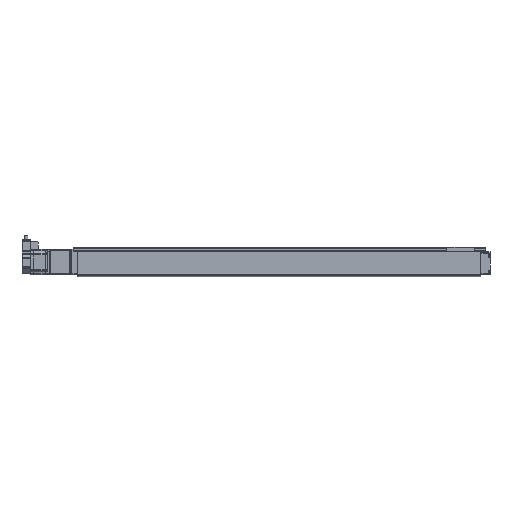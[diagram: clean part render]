
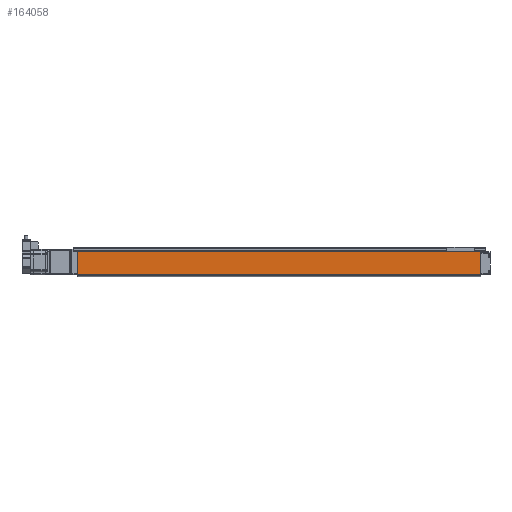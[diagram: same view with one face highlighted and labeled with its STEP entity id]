
A CAD part, front view. The second image highlights one B-rep face of the part: STEP entity #164058.
In plain terms, the highlighted planar face has unit normal (0, -1, 0).
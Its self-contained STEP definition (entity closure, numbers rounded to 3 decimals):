
#164058 = ADVANCED_FACE('',(#164059),#164073,.T.);
#164059 = FACE_BOUND('',#164060,.T.);
#164060 = EDGE_LOOP('',(#164061,#164096,#164124,#164152));
#164061 = ORIENTED_EDGE('',*,*,#164062,.T.);
#164062 = EDGE_CURVE('',#164063,#164065,#164067,.T.);
#164063 = VERTEX_POINT('',#164064);
#164064 = CARTESIAN_POINT('',(1376.173,-709.318,181.5));
#164065 = VERTEX_POINT('',#164066);
#164066 = CARTESIAN_POINT('',(1376.173,-709.318,232.5));
#164067 = SURFACE_CURVE('',#164068,(#164072,#164084),.PCURVE_S1.);
#164068 = LINE('',#164069,#164070);
#164069 = CARTESIAN_POINT('',(1376.173,-709.318,207.));
#164070 = VECTOR('',#164071,1.);
#164071 = DIRECTION('',(0.,0.,1.));
#164072 = PCURVE('',#164073,#164078);
#164073 = PLANE('',#164074);
#164074 = AXIS2_PLACEMENT_3D('',#164075,#164076,#164077);
#164075 = CARTESIAN_POINT('',(486.173,-709.318,181.5));
#164076 = DIRECTION('',(0.,-1.,0.));
#164077 = DIRECTION('',(1.,0.,0.));
#164078 = DEFINITIONAL_REPRESENTATION('',(#164079),#164083);
#164079 = LINE('',#164080,#164081);
#164080 = CARTESIAN_POINT('',(890.,25.5));
#164081 = VECTOR('',#164082,1.);
#164082 = DIRECTION('',(0.,1.));
#164083 = ( GEOMETRIC_REPRESENTATION_CONTEXT(2) 
PARAMETRIC_REPRESENTATION_CONTEXT() REPRESENTATION_CONTEXT('2D SPACE',''
  ) );
#164084 = PCURVE('',#164085,#164090);
#164085 = PLANE('',#164086);
#164086 = AXIS2_PLACEMENT_3D('',#164087,#164088,#164089);
#164087 = CARTESIAN_POINT('',(1376.173,-629.318,181.5));
#164088 = DIRECTION('',(-1.,0.,0.));
#164089 = DIRECTION('',(0.,-1.,0.));
#164090 = DEFINITIONAL_REPRESENTATION('',(#164091),#164095);
#164091 = LINE('',#164092,#164093);
#164092 = CARTESIAN_POINT('',(80.,25.5));
#164093 = VECTOR('',#164094,1.);
#164094 = DIRECTION('',(0.,1.));
#164095 = ( GEOMETRIC_REPRESENTATION_CONTEXT(2) 
PARAMETRIC_REPRESENTATION_CONTEXT() REPRESENTATION_CONTEXT('2D SPACE',''
  ) );
#164096 = ORIENTED_EDGE('',*,*,#164097,.T.);
#164097 = EDGE_CURVE('',#164065,#164098,#164100,.T.);
#164098 = VERTEX_POINT('',#164099);
#164099 = CARTESIAN_POINT('',(486.173,-709.318,232.5));
#164100 = SURFACE_CURVE('',#164101,(#164105,#164112),.PCURVE_S1.);
#164101 = LINE('',#164102,#164103);
#164102 = CARTESIAN_POINT('',(931.173,-709.318,232.5));
#164103 = VECTOR('',#164104,1.);
#164104 = DIRECTION('',(-1.,0.,0.));
#164105 = PCURVE('',#164073,#164106);
#164106 = DEFINITIONAL_REPRESENTATION('',(#164107),#164111);
#164107 = LINE('',#164108,#164109);
#164108 = CARTESIAN_POINT('',(445.,51.));
#164109 = VECTOR('',#164110,1.);
#164110 = DIRECTION('',(-1.,0.));
#164111 = ( GEOMETRIC_REPRESENTATION_CONTEXT(2) 
PARAMETRIC_REPRESENTATION_CONTEXT() REPRESENTATION_CONTEXT('2D SPACE',''
  ) );
#164112 = PCURVE('',#164113,#164118);
#164113 = PLANE('',#164114);
#164114 = AXIS2_PLACEMENT_3D('',#164115,#164116,#164117);
#164115 = CARTESIAN_POINT('',(486.173,-709.318,232.5));
#164116 = DIRECTION('',(0.,0.,-1.));
#164117 = DIRECTION('',(0.,1.,0.));
#164118 = DEFINITIONAL_REPRESENTATION('',(#164119),#164123);
#164119 = LINE('',#164120,#164121);
#164120 = CARTESIAN_POINT('',(0.,445.));
#164121 = VECTOR('',#164122,1.);
#164122 = DIRECTION('',(0.,-1.));
#164123 = ( GEOMETRIC_REPRESENTATION_CONTEXT(2) 
PARAMETRIC_REPRESENTATION_CONTEXT() REPRESENTATION_CONTEXT('2D SPACE',''
  ) );
#164124 = ORIENTED_EDGE('',*,*,#164125,.T.);
#164125 = EDGE_CURVE('',#164098,#164126,#164128,.T.);
#164126 = VERTEX_POINT('',#164127);
#164127 = CARTESIAN_POINT('',(486.173,-709.318,181.5));
#164128 = SURFACE_CURVE('',#164129,(#164133,#164140),.PCURVE_S1.);
#164129 = LINE('',#164130,#164131);
#164130 = CARTESIAN_POINT('',(486.173,-709.318,207.));
#164131 = VECTOR('',#164132,1.);
#164132 = DIRECTION('',(0.,0.,-1.));
#164133 = PCURVE('',#164073,#164134);
#164134 = DEFINITIONAL_REPRESENTATION('',(#164135),#164139);
#164135 = LINE('',#164136,#164137);
#164136 = CARTESIAN_POINT('',(0.,25.5));
#164137 = VECTOR('',#164138,1.);
#164138 = DIRECTION('',(0.,-1.));
#164139 = ( GEOMETRIC_REPRESENTATION_CONTEXT(2) 
PARAMETRIC_REPRESENTATION_CONTEXT() REPRESENTATION_CONTEXT('2D SPACE',''
  ) );
#164140 = PCURVE('',#164141,#164146);
#164141 = PLANE('',#164142);
#164142 = AXIS2_PLACEMENT_3D('',#164143,#164144,#164145);
#164143 = CARTESIAN_POINT('',(486.173,-709.318,181.5));
#164144 = DIRECTION('',(1.,0.,0.));
#164145 = DIRECTION('',(0.,1.,0.));
#164146 = DEFINITIONAL_REPRESENTATION('',(#164147),#164151);
#164147 = LINE('',#164148,#164149);
#164148 = CARTESIAN_POINT('',(0.,25.5));
#164149 = VECTOR('',#164150,1.);
#164150 = DIRECTION('',(0.,-1.));
#164151 = ( GEOMETRIC_REPRESENTATION_CONTEXT(2) 
PARAMETRIC_REPRESENTATION_CONTEXT() REPRESENTATION_CONTEXT('2D SPACE',''
  ) );
#164152 = ORIENTED_EDGE('',*,*,#164153,.T.);
#164153 = EDGE_CURVE('',#164126,#164063,#164154,.T.);
#164154 = SURFACE_CURVE('',#164155,(#164159,#164166),.PCURVE_S1.);
#164155 = LINE('',#164156,#164157);
#164156 = CARTESIAN_POINT('',(931.173,-709.318,181.5));
#164157 = VECTOR('',#164158,1.);
#164158 = DIRECTION('',(1.,0.,0.));
#164159 = PCURVE('',#164073,#164160);
#164160 = DEFINITIONAL_REPRESENTATION('',(#164161),#164165);
#164161 = LINE('',#164162,#164163);
#164162 = CARTESIAN_POINT('',(445.,0.));
#164163 = VECTOR('',#164164,1.);
#164164 = DIRECTION('',(1.,0.));
#164165 = ( GEOMETRIC_REPRESENTATION_CONTEXT(2) 
PARAMETRIC_REPRESENTATION_CONTEXT() REPRESENTATION_CONTEXT('2D SPACE',''
  ) );
#164166 = PCURVE('',#164167,#164172);
#164167 = PLANE('',#164168);
#164168 = AXIS2_PLACEMENT_3D('',#164169,#164170,#164171);
#164169 = CARTESIAN_POINT('',(486.173,-629.318,181.5));
#164170 = DIRECTION('',(0.,0.,1.));
#164171 = DIRECTION('',(0.,-1.,0.));
#164172 = DEFINITIONAL_REPRESENTATION('',(#164173),#164177);
#164173 = LINE('',#164174,#164175);
#164174 = CARTESIAN_POINT('',(80.,445.));
#164175 = VECTOR('',#164176,1.);
#164176 = DIRECTION('',(0.,1.));
#164177 = ( GEOMETRIC_REPRESENTATION_CONTEXT(2) 
PARAMETRIC_REPRESENTATION_CONTEXT() REPRESENTATION_CONTEXT('2D SPACE',''
  ) );
